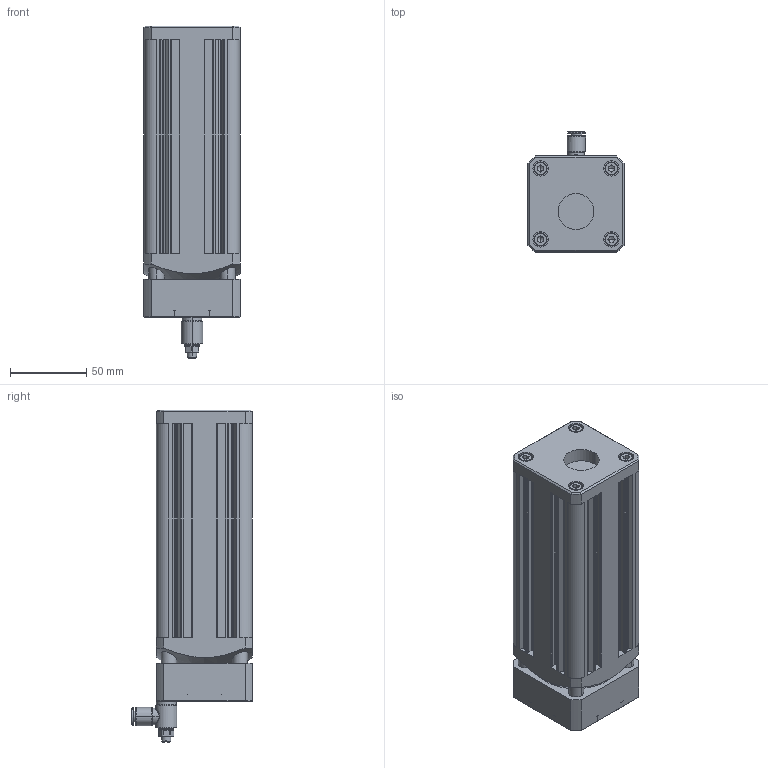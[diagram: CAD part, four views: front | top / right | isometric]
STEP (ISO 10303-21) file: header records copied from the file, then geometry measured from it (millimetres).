
FILE_DESCRIPTION (( 'STEP AP203' ), '1' );
FILE_NAME ('VNOK-C-AL-E-0050-0140.STEP', '2019-02-06T12:57:28', ( '' ), ( '' ), 'SwSTEP 2.0', 'SolidWorks 2018', '' );
FILE_SCHEMA (( 'CONFIG_CONTROL_DESIGN' ));
Length unit declared in the file: millimetre
Products named in the file (1): VNOK-C-AL-E-0050-0140
Bounding box: 63 x 79.28 x 217.6 mm (x, y, z)
Volume: 687289.8 mm3; surface area: 81610.7 mm2
Topology: 1 solids, 20 shells, 841 faces, 2114 edges, 1336 vertices
Faces by surface type: plane 422, cylinder 285, cone 70, bspline 64
Entity records: 28914 total; most frequent: CARTESIAN_POINT 8597, DIRECTION 4369, ORIENTED_EDGE 4164, EDGE_CURVE 2082, AXIS2_PLACEMENT_3D 1651, VERTEX_POINT 1336, LINE 1067, VECTOR 1067
